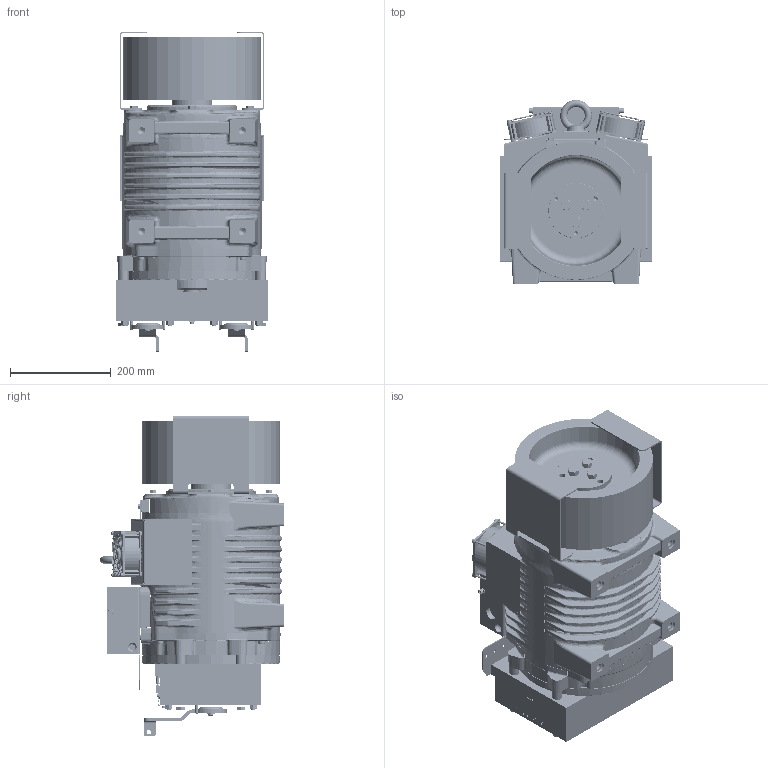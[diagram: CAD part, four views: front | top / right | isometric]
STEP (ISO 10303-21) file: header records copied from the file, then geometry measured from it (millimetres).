
FILE_DESCRIPTION((''),'2;1');
FILE_NAME('00366577_ASM','2023-06-05T12:20:26',('AsgharM'),('Sicor spa'),'CREO PARAMETRIC BY PTC INC, 2022164','CREO PARAMETRIC BY PTC INC, 2022164','');
FILE_SCHEMA(('CONFIG_CONTROL_DESIGN'));
Products named in the file (18): SG30_2023; G__270; _270_125; 00073486; GROWER_M12_GRO0002; TEM12X45_VIT0222; 00246001; M4_FTT_C; 00254619_ASM; 00254091; 00254090; 00254089_ASM; 00257271; 00042420_M4X50; TEM6X12_VIR0184; 00000263; 00257441_ASM; 00366577_ASM
Assembly tree (39 placements, depth 4):
  00366577_ASM
    SG30_2023
    G__270  x2
    _270_125
    00073486
    GROWER_M12_GRO0002  x3
    TEM12X45_VIT0222  x3
    00257441_ASM
      00254619_ASM
        00246001
        M4_FTT_C  x8
      00254089_ASM  x2
        00254091
        00254090
      00257271  x2
      00042420_M4X50  x8
      TEM6X12_VIR0184  x2
      00000263
Bounding box: 300.4 x 364.99 x 635.52 mm (x, y, z)
Volume: 5846795 mm3; surface area: 1956825.4 mm2
Topology: 36 solids, 289 shells, 4928 faces, 17091 edges, 12266 vertices
Faces by surface type: plane 1962, cylinder 1185, bspline 949, torus 411, cone 393, sphere 28
Entity records: 236444 total; most frequent: CARTESIAN_POINT 111377, ORIENTED_EDGE 24206, DIRECTION 23887, EDGE_CURVE 15621, VERTEX_POINT 11393, VECTOR 9073, LINE 9073, AXIS2_PLACEMENT_3D 7407
